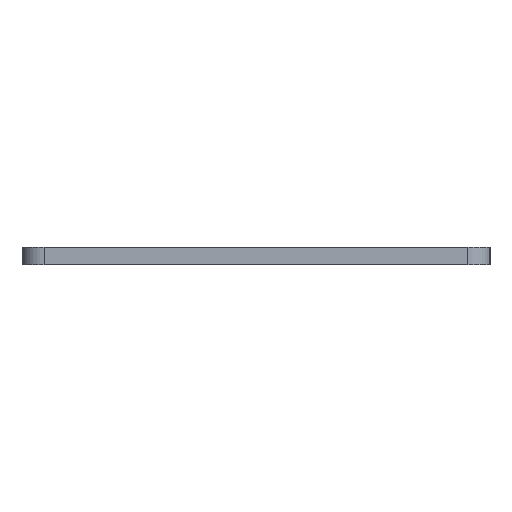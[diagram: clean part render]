
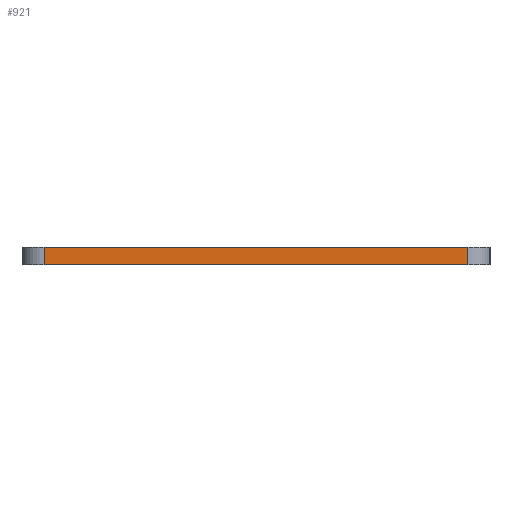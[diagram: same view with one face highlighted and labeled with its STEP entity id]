
A CAD part, left-side view. The second image highlights one B-rep face of the part: STEP entity #921.
In plain terms, the highlighted planar face has unit normal (-1, 0, 0).
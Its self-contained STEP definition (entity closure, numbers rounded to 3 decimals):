
#39 = CARTESIAN_POINT ( 'NONE',  ( -79., 24., 2. ) ) ;
#42 = ORIENTED_EDGE ( 'NONE', *, *, #144, .F. ) ;
#97 = DIRECTION ( 'NONE',  ( -1., 0., 0. ) ) ;
#99 = CARTESIAN_POINT ( 'NONE',  ( -79., -24., 2. ) ) ;
#113 = FACE_OUTER_BOUND ( 'NONE', #733, .T. ) ;
#144 = EDGE_CURVE ( 'NONE', #297, #647, #636, .T. ) ;
#186 = PLANE ( 'NONE',  #732 ) ;
#229 = ORIENTED_EDGE ( 'NONE', *, *, #425, .F. ) ;
#253 = DIRECTION ( 'NONE',  ( 0., 0., 1. ) ) ;
#256 = CARTESIAN_POINT ( 'NONE',  ( -79., -24., 0. ) ) ;
#297 = VERTEX_POINT ( 'NONE', #256 ) ;
#370 = DIRECTION ( 'NONE',  ( 0., 1., 0. ) ) ;
#425 = EDGE_CURVE ( 'NONE', #1184, #297, #1304, .T. ) ;
#446 = CARTESIAN_POINT ( 'NONE',  ( -79., 24., 2. ) ) ;
#501 = DIRECTION ( 'NONE',  ( 0., 1., 0. ) ) ;
#504 = CARTESIAN_POINT ( 'NONE',  ( -79., -24., 0. ) ) ;
#505 = CARTESIAN_POINT ( 'NONE',  ( -79., -24., 2. ) ) ;
#527 = VECTOR ( 'NONE', #1382, 1000. ) ;
#628 = CARTESIAN_POINT ( 'NONE',  ( -79., -24., 2. ) ) ;
#636 = LINE ( 'NONE', #504, #648 ) ;
#645 = LINE ( 'NONE', #505, #1441 ) ;
#647 = VERTEX_POINT ( 'NONE', #851 ) ;
#648 = VECTOR ( 'NONE', #370, 1000. ) ;
#732 = AXIS2_PLACEMENT_3D ( 'NONE', #99, #97, #253 ) ;
#733 = EDGE_LOOP ( 'NONE', ( #42, #229, #1038, #889 ) ) ;
#851 = CARTESIAN_POINT ( 'NONE',  ( -79., 24., 0. ) ) ;
#885 = CARTESIAN_POINT ( 'NONE',  ( -79., -24., 2. ) ) ;
#889 = ORIENTED_EDGE ( 'NONE', *, *, #996, .T. ) ;
#921 = ADVANCED_FACE ( 'NONE', ( #113 ), #186, .T. ) ;
#996 = EDGE_CURVE ( 'NONE', #1059, #647, #1370, .T. ) ;
#1022 = DIRECTION ( 'NONE',  ( 0., 0., -1. ) ) ;
#1038 = ORIENTED_EDGE ( 'NONE', *, *, #1114, .T. ) ;
#1059 = VERTEX_POINT ( 'NONE', #446 ) ;
#1114 = EDGE_CURVE ( 'NONE', #1184, #1059, #645, .T. ) ;
#1184 = VERTEX_POINT ( 'NONE', #885 ) ;
#1302 = VECTOR ( 'NONE', #1022, 1000. ) ;
#1304 = LINE ( 'NONE', #628, #1302 ) ;
#1370 = LINE ( 'NONE', #39, #527 ) ;
#1382 = DIRECTION ( 'NONE',  ( 0., 0., -1. ) ) ;
#1441 = VECTOR ( 'NONE', #501, 1000. ) ;
